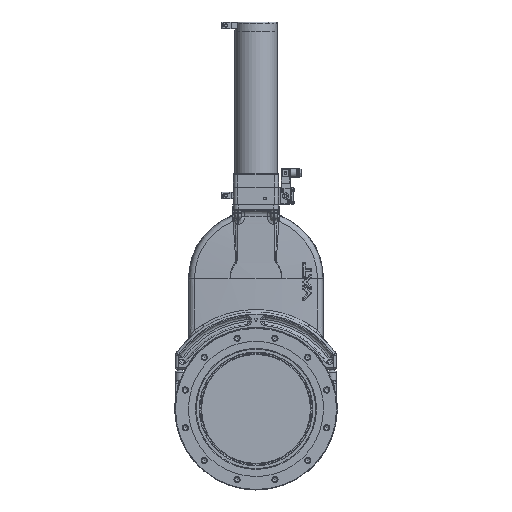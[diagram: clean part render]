
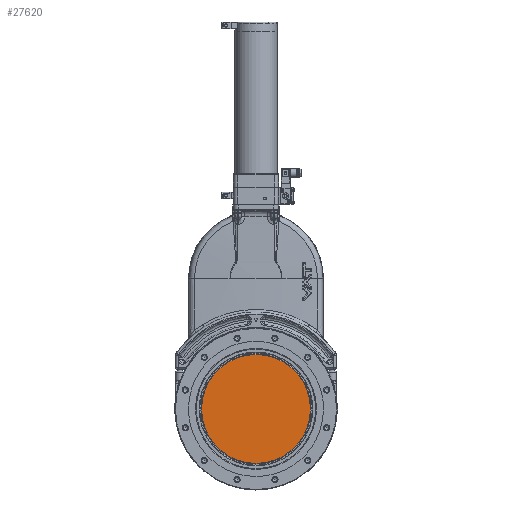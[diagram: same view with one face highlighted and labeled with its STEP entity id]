
A CAD part, top view. The second image highlights one B-rep face of the part: STEP entity #27620.
In plain terms, the highlighted planar face has unit normal (0, 0, 1).
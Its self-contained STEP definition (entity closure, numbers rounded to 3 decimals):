
#13398=FACE_OUTER_BOUND('',#33677,.T.);
#24302=PLANE('',#68534);
#27620=ADVANCED_FACE('',(#13398),#24302,.F.);
#33677=EDGE_LOOP('',(#49131));
#49131=ORIENTED_EDGE('',*,*,#61982,.T.);
#54255=VERTEX_POINT('',#138828);
#61982=EDGE_CURVE('',#54255,#54255,#63890,.T.);
#63890=CIRCLE('',#68532,96.775);
#68532=AXIS2_PLACEMENT_3D('',#138827,#80764,#80765);
#68534=AXIS2_PLACEMENT_3D('',#138830,#80768,#80769);
#80764=DIRECTION('',(0.,0.,1.));
#80765=DIRECTION('',(1.,0.,0.));
#80768=DIRECTION('',(0.,0.,-1.));
#80769=DIRECTION('',(-1.,0.,0.));
#138827=CARTESIAN_POINT('',(0.,0.,13.879));
#138828=CARTESIAN_POINT('',(96.775,0.,13.879));
#138830=CARTESIAN_POINT('',(0.,96.775,13.879));
